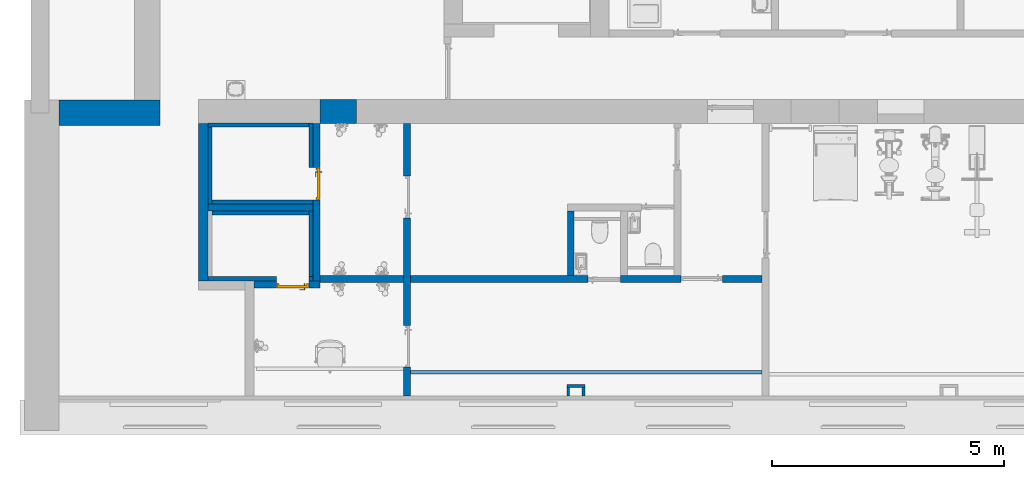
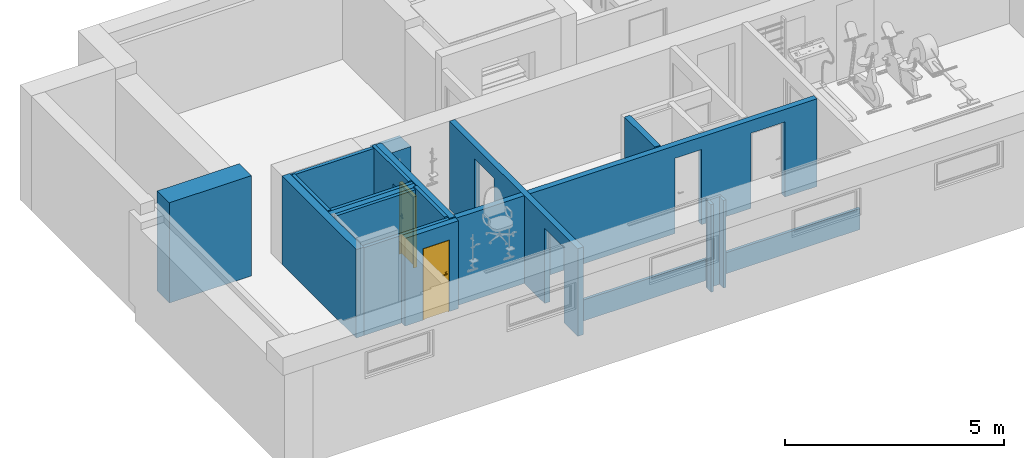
# One storey, part 3 of 23: 20 walls, 2 doors, 9 openings.
"""IFC2X3 building model written with IfcOpenShell, lengths in millimetres."""

from ifc_helpers import new_model, entity, si_unit, converted_unit, derived_unit, direction, frame, frame_2d, origin, place, context, subcontext, project, spatial, polyline, rectangle, extrude, clip, bounded_halfspace, faceted_brep, source, transform, mapped, material, material_list, layer, layer_set, layer_usage, type_object, type_shapes, element, fill, save


model = new_model("IFC2X3")

# Units and contexts
model_context = context("Model", 3, precision=0.01, world=origin(), true_north=direction((6.12303176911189e-17, 1.0)))
body_context = subcontext(model_context, "Body", "Model", "MODEL_VIEW")
ifc_project = project(units=[si_unit("LENGTHUNIT", "METRE", prefix="MILLI"), si_unit("AREAUNIT", "SQUARE_METRE"), si_unit("VOLUMEUNIT", "CUBIC_METRE"), converted_unit("PLANEANGLEUNIT", "DEGREE", entity("IfcRatioMeasure", 0.0174532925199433), si_unit("PLANEANGLEUNIT", "RADIAN"), dimensions=[0, 0, 0, 0, 0, 0, 0]), si_unit("MASSUNIT", "GRAM", prefix="KILO"), derived_unit("MASSDENSITYUNIT", [(si_unit("MASSUNIT", "GRAM", prefix="KILO"), 1), (si_unit("LENGTHUNIT", "METRE"), -3)]), si_unit("TIMEUNIT", "SECOND"), si_unit("FREQUENCYUNIT", "HERTZ"), si_unit("THERMODYNAMICTEMPERATUREUNIT", "DEGREE_CELSIUS"), derived_unit("THERMALTRANSMITTANCEUNIT", [(si_unit("MASSUNIT", "GRAM", prefix="KILO"), 1), (si_unit("THERMODYNAMICTEMPERATUREUNIT", "KELVIN"), -1), (si_unit("TIMEUNIT", "SECOND"), -3)]), derived_unit("VOLUMETRICFLOWRATEUNIT", [(si_unit("LENGTHUNIT", "METRE"), 3), (si_unit("TIMEUNIT", "SECOND"), -1)]), si_unit("ELECTRICCURRENTUNIT", "AMPERE"), si_unit("ELECTRICVOLTAGEUNIT", "VOLT"), si_unit("POWERUNIT", "WATT"), si_unit("FORCEUNIT", "NEWTON", prefix="KILO"), si_unit("ILLUMINANCEUNIT", "LUX"), si_unit("LUMINOUSFLUXUNIT", "LUMEN"), si_unit("LUMINOUSINTENSITYUNIT", "CANDELA"), derived_unit("USERDEFINED", [(si_unit("MASSUNIT", "GRAM", prefix="KILO"), -1), (si_unit("LENGTHUNIT", "METRE"), -2), (si_unit("TIMEUNIT", "SECOND"), 3), (si_unit("LUMINOUSFLUXUNIT", "LUMEN"), 1)]), derived_unit("LINEARVELOCITYUNIT", [(si_unit("LENGTHUNIT", "METRE"), 1), (si_unit("TIMEUNIT", "SECOND"), -1)]), si_unit("PRESSUREUNIT", "PASCAL"), derived_unit("USERDEFINED", [(si_unit("LENGTHUNIT", "METRE"), -2), (si_unit("MASSUNIT", "GRAM", prefix="KILO"), 1), (si_unit("TIMEUNIT", "SECOND"), -2)]), derived_unit("LINEARFORCEUNIT", [(si_unit("MASSUNIT", "GRAM", prefix="KILO"), 1), (si_unit("LENGTHUNIT", "METRE"), 1), (si_unit("TIMEUNIT", "SECOND"), -2), (si_unit("LENGTHUNIT", "METRE"), -1)]), derived_unit("PLANARFORCEUNIT", [(si_unit("MASSUNIT", "GRAM", prefix="KILO"), 1), (si_unit("LENGTHUNIT", "METRE"), 1), (si_unit("TIMEUNIT", "SECOND"), -2), (si_unit("LENGTHUNIT", "METRE"), -2)])], contexts=[model_context])

# Site, building, storey
site_placement = place(None, origin())
site = spatial("IfcSite", under=ifc_project, at=site_placement, Name="Default", CompositionType="ELEMENT")
building_placement = place(site_placement, origin())
building = spatial("IfcBuilding", under=site, at=building_placement, Name="SMA ARH", CompositionType="ELEMENT")
storey_placement = place(building_placement, frame((0.0, 0.0, -2800.0)))
storey = spatial("IfcBuildingStorey", under=building, at=storey_placement, Name="0 Sokkel", CompositionType="ELEMENT", Elevation=-2800.0)

# Walls
ifc_material_1 = material(Name="_ol.olev sein")
ifc_layer_1 = layer(ifc_material_1, 550.0)
ifc_layer_set_1 = layer_set([ifc_layer_1], Name="Basic Wall:Generic - 550mm")
ifc_layer_usage_1 = layer_usage(ifc_layer_set_1, "AXIS2", "POSITIVE", -275.0)
wall_type_1 = type_object("IfcWallType", Name="Basic Wall:Generic - 550mm", PredefinedType="STANDARD", material=ifc_layer_set_1)
wall_1_placement = place(storey_placement, frame((145.0, 6235.0, 0.0)))
element("IfcWallStandardCase", 1, at=wall_1_placement, inside=storey, type_object=wall_type_1, material=ifc_layer_usage_1, Name="Basic Wall:Generic - 550mm", ObjectType="Basic Wall:Generic - 550mm", context=body_context, shape_type="SweptSolid", body=[
    extrude(rectangle(XDim=2170.0, YDim=550.000000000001, at=frame_2d((1085.0, -3.12638803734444e-13), x_axis=(-1.0, 0.0))), origin(), (0.0, 0.0, 1.0), 2800.0),
])
ifc_layer_2 = layer(ifc_material_1, 200.0)
ifc_layer_set_2 = layer_set([ifc_layer_2], Name="Basic Wall:Generic - 200mm")
ifc_layer_usage_2 = layer_usage(ifc_layer_set_2, "AXIS2", "NEGATIVE", 100.0)
wall_type_2 = type_object("IfcWallType", Name="Basic Wall:Generic - 200mm", PredefinedType="STANDARD", material=ifc_layer_set_2)
wall_2_placement = place(storey_placement, frame((3250.0, 2615.0, 0.0), z_axis=(0.0, 0.0, 1.0), x_axis=(0.0, 1.0, 0.0)))
element("IfcWallStandardCase", 2, at=wall_2_placement, inside=storey, type_object=wall_type_2, material=ifc_layer_usage_2, Name="Basic Wall:Generic - 200mm", ObjectType="Basic Wall:Generic - 200mm", context=body_context, shape_type="Clipping", body=[
    clip(extrude(rectangle(XDim=3395.00000000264, YDim=200.0, at=frame_2d((1697.50000000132, -1.13686837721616e-13), x_axis=(-1.0, 0.0))), origin(), (0.0, 0.0, 1.0), 2470.0), bounded_halfspace(frame((0.0, -100.0, 2470.0), z_axis=(0.0, 0.0, -1.0), x_axis=(1.0, 0.0, 0.0)), True, frame((0.0, -100.0, 2470.0), z_axis=(0.0, 0.0, -1.0), x_axis=(1.0, 0.0, 0.0)), polyline([(0.0, 0.0), (0.0, -200.0), (3395.0, -200.0), (3395.0, 0.0), (0.0, 0.0)]))),
])
ifc_material_2 = material(Name="EST. Müüritis. Väikeplokk. Kergkruusplokk")
ifc_layer_3 = layer(ifc_material_2, 510.0)
ifc_layer_set_3 = layer_set([ifc_layer_3], Name="Basic Wall:SS-03_Fibo 510mm kinnilaotav ava")
ifc_layer_usage_3 = layer_usage(ifc_layer_set_3, "AXIS2", "NEGATIVE", 255.0)
wall_type_3 = type_object("IfcWallType", Name="Basic Wall:SS-03_Fibo 510mm kinnilaotav ava", PredefinedType="STANDARD", material=ifc_layer_set_3)
wall_3_placement = place(storey_placement, frame((5769.97172272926, 6265.0, 0.0)))
element("IfcWallStandardCase", 3, at=wall_3_placement, inside=storey, type_object=wall_type_3, material=ifc_layer_usage_3, Name="Basic Wall:SS-03_Fibo 510mm kinnilaotav ava", ObjectType="Basic Wall:SS-03_Fibo 510mm kinnilaotav ava", context=body_context, shape_type="SweptSolid", body=[
    extrude(rectangle(XDim=786.646348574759, YDim=510.000000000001, at=frame_2d((393.323174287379, 3.12638803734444e-13), x_axis=(-1.0, 0.0))), origin(), (0.0, 0.0, 1.0), 2100.0),
])

# Wall, openings
ifc_layer_4 = layer(ifc_material_2, 150.0)
ifc_layer_set_4 = layer_set([ifc_layer_4], Name="Basic Wall:SS-01_ 150mm soklikorruse seinad")
ifc_layer_usage_4 = layer_usage(ifc_layer_set_4, "AXIS2", "NEGATIVE", 75.0)
wall_type_4 = type_object("IfcWallType", Name="Basic Wall:SS-01_ 150mm soklikorruse seinad", PredefinedType="STANDARD", material=ifc_layer_set_4)
wall_4_placement = place(storey_placement, frame((7644.97172272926, 6010.0, 0.0), z_axis=(0.0, 0.0, 1.0), x_axis=(0.0, -1.0, 0.0)))
wall_4 = element("IfcWallStandardCase", 4, at=wall_4_placement, inside=storey, type_object=wall_type_4, material=ifc_layer_usage_4, Name="Basic Wall:SS-01_ 150mm soklikorruse seinad", ObjectType="Basic Wall:SS-01_ 150mm soklikorruse seinad", context=body_context, shape_type="SweptSolid", body=[
    extrude(rectangle(XDim=5875.00000000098, YDim=150.000000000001, at=frame_2d((2937.50000000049, -2.1316282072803e-14), x_axis=(-1.0, 0.0))), origin(), (0.0, 0.0, 1.0), 2450.0),
])
opening_1_placement = place(wall_4_placement, frame((1140.0, -75.0, 0.0)))
element("IfcOpeningElement", 5, at=opening_1_placement, cuts=wall_4, Name="SMA_D01, 1-poolne:SU-KL-02 - 900x2100:1", ObjectType="Opening", context=body_context, shape_type="SweptSolid", body=[
    extrude(rectangle(XDim=2099.99999999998, YDim=900.0, at=frame_2d((1049.99999999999, 450.0), x_axis=(1.0, 0.0))), frame((0.0, 0.0, 0.0), z_axis=(0.0, 1.0, 0.0), x_axis=(0.0, 0.0, 1.0)), (0.0, 0.0, 1.0), 150.0),
])
opening_2_placement = place(wall_4_placement, frame((4355.0, -75.0, 0.0)))
element("IfcOpeningElement", 6, at=opening_2_placement, cuts=wall_4, Name="SMA_D01, 1-poolne:SU-KL-02 - 900x2100:1", ObjectType="Opening", context=body_context, shape_type="SweptSolid", body=[
    extrude(rectangle(XDim=2099.99999999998, YDim=900.0, at=frame_2d((1049.99999999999, 450.0), x_axis=(1.0, 0.0))), frame((0.0, 0.0, 0.0), z_axis=(0.0, 1.0, 0.0), x_axis=(0.0, 0.0, 1.0)), (0.0, 0.0, 1.0), 150.0),
])

# Wall, opening, door
ifc_layer_usage_5 = layer_usage(ifc_layer_set_4, "AXIS2", "NEGATIVE", 75.0)
wall_5_placement = place(storey_placement, frame((5694.97172272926, 2615.0, 0.0), z_axis=(0.0, 0.0, 1.0), x_axis=(0.0, 1.0, 0.0)))
wall_5 = element("IfcWallStandardCase", 7, at=wall_5_placement, inside=storey, type_object=wall_type_4, material=ifc_layer_usage_5, Name="Basic Wall:SS-01_ 150mm soklikorruse seinad", ObjectType="Basic Wall:SS-01_ 150mm soklikorruse seinad", context=body_context, shape_type="SweptSolid", body=[
    extrude(rectangle(XDim=3395.00000000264, YDim=150.000000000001, at=frame_2d((1697.50000000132, -7.105427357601e-15), x_axis=(-1.0, 0.0))), origin(), (0.0, 0.0, 1.0), 2480.0),
])
opening_3_placement = place(wall_5_placement, frame((2445.0, 75.0, 0.0)))
opening_3 = element("IfcOpeningElement", 8, at=opening_3_placement, cuts=wall_5, Name="sma_D01:SU-KL-01 - 700x2000 SAUN KLAAS:1", ObjectType="Opening", context=body_context, shape_type="SweptSolid", body=[
    extrude(rectangle(XDim=1999.99999999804, YDim=700.0, at=frame_2d((999.999999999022, 350.0), x_axis=(1.0, 0.0))), frame((0.0, 0.0, 0.0), z_axis=(0.0, -1.0, 0.0), x_axis=(0.0, 0.0, 1.0)), (0.0, 0.0, 1.0), 150.0),
])
ifc_material_3 = material(Name="Metal - Aluminium")
ifc_material_4 = material(Name="__Aknaraam")
ifc_material_5 = material(Name="Glass")
ifc_material_list_1 = material_list([ifc_material_3, ifc_material_4, ifc_material_5])
ifc_material_6 = material(Name="<Unnamed>")
ifc_material_list_2 = material_list([ifc_material_6, ifc_material_5, ifc_material_3, ifc_material_5, ifc_material_6, ifc_material_4, ifc_material_6])
door_style = type_object("IfcDoorStyle", Name="sma_D01:SU-KL-01 - 700x2000 SAUN KLAAS", ConstructionType="NOTDEFINED", OperationType="NOTDEFINED", ParameterTakesPrecedence=False, Sizeable=False, material=ifc_material_list_2)
shared_shape = source(origin(), body_context, "Body", "Brep", [
    faceted_brep([(110.0, 60.0, 1112.5), (110.0, 98.0, 1112.5), (85.0, 98.0, 1112.5), (85.0, 55.0, 1112.5), (205.0, 55.0, 1112.5), (205.0, 60.0, 1112.5), (110.0, 60.0, 1087.5), (205.0, 60.0, 1087.5), (205.0, 55.0, 1087.5), (85.0, 55.0, 1087.5), (85.0, 98.0, 1087.5), (110.0, 98.0, 1087.5)], [[[0, 1, 2, 3, 4, 5]], [[6, 7, 8, 9, 10, 11]], [[1, 0, 6, 11]], [[2, 1, 11, 10]], [[3, 2, 10, 9]], [[4, 3, 9, 8]], [[5, 4, 8, 7]], [[0, 5, 7, 6]]]),
    faceted_brep([(122.5, 98.0, 1137.5), (122.5, 100.0, 1137.5), (72.4999999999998, 100.0, 1137.5), (72.4999999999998, 98.0, 1137.5), (122.5, 98.0, 1017.5), (72.4999999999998, 98.0, 1017.5), (72.4999999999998, 100.0, 1017.5), (122.5, 100.0, 1017.5)], [[[0, 1, 2, 3]], [[4, 5, 6, 7]], [[1, 0, 4, 7]], [[2, 1, 7, 6]], [[3, 2, 6, 5]], [[0, 3, 5, 4]]]),
    faceted_brep([(110.0, 190.0, 1112.5), (205.0, 190.0, 1112.5), (205.0, 195.0, 1112.5), (85.0, 195.0, 1112.5), (85.0, 152.0, 1112.5), (110.0, 152.0, 1112.5), (110.0, 190.0, 1087.5), (110.0, 152.0, 1087.5), (85.0, 152.0, 1087.5), (85.0, 195.0, 1087.5), (205.0, 195.0, 1087.5), (205.0, 190.0, 1087.5)], [[[0, 1, 2, 3, 4, 5]], [[6, 7, 8, 9, 10, 11]], [[5, 7, 6, 0]], [[4, 8, 7, 5]], [[3, 9, 8, 4]], [[2, 10, 9, 3]], [[1, 11, 10, 2]], [[0, 6, 11, 1]]]),
    faceted_brep([(122.5, 152.0, 1137.5), (72.4999999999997, 152.0, 1137.5), (72.4999999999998, 150.0, 1137.5), (122.5, 150.0, 1137.5), (122.5, 152.0, 1017.5), (122.5, 150.0, 1017.5), (72.4999999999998, 150.0, 1017.5), (72.4999999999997, 152.0, 1017.5)], [[[0, 1, 2, 3]], [[4, 5, 6, 7]], [[3, 5, 4, 0]], [[2, 6, 5, 3]], [[1, 7, 6, 2]], [[0, 4, 7, 1]]]),
    faceted_brep([(690.0, 60.0, 0.0), (650.0, 60.0, 0.0), (650.0, 100.0, 0.0), (665.0, 100.0, 0.0), (665.0, 150.0, 0.0), (690.0, 150.0, 0.0), (690.0, 60.0, 1990.0), (10.0, 60.0, 1990.0), (10.0, 60.0, 0.0), (50.0, 60.0, 0.0), (50.0, 60.0, 1950.0), (650.0, 60.0, 1950.0), (650.0, 100.0, 1950.0), (50.0, 100.0, 1950.0), (50.0, 100.0, 0.0), (35.0, 100.0, 0.0), (35.0, 100.0, 1965.0), (665.0, 100.0, 1965.0), (665.0, 150.0, 1965.0), (35.0, 150.0, 1965.0), (35.0, 150.0, 0.0), (10.0, 150.0, 0.0), (10.0, 150.0, 1990.0), (690.0, 150.0, 1990.0)], [[[0, 1, 2, 3, 4, 5]], [[1, 0, 6, 7, 8, 9, 10, 11]], [[2, 1, 11, 12]], [[3, 2, 12, 13, 14, 15, 16, 17]], [[4, 3, 17, 18]], [[5, 4, 18, 19, 20, 21, 22, 23]], [[0, 5, 23, 6]], [[8, 7, 22, 21]], [[9, 8, 21, 20, 15, 14]], [[10, 9, 14, 13]], [[16, 15, 20, 19]], [[11, 10, 13, 12]], [[17, 16, 19, 18]], [[7, 6, 23, 22]]]),
    faceted_brep([(35.0, 100.0, 1965.0), (35.0, 100.0, 20.0), (665.0, 100.0, 20.0), (665.0, 100.0, 1965.0), (35.0, 150.0, 1965.0), (665.0, 150.0, 1965.0), (665.0, 150.0, 20.0), (35.0, 150.0, 20.0)], [[[0, 1, 2, 3]], [[4, 5, 6, 7]], [[1, 0, 4, 7]], [[2, 1, 7, 6]], [[3, 2, 6, 5]], [[0, 3, 5, 4]]]),
])
type_shapes(door_style, [shared_shape])
door_1_placement = place(opening_3_placement, frame((0.0, 0.0, 0.0), z_axis=(0.0, 0.0, 1.0), x_axis=(-1.0, 0.0, 0.0)))
door_1 = element("IfcDoor", 9, at=door_1_placement, inside=storey, type_object=door_style, material=ifc_material_list_1, Name="sma_D01:SU-KL-01 - 700x2000 SAUN KLAAS", ObjectType="sma_D01:SU-KL-01 - 700x2000 SAUN KLAAS", OverallHeight=1999.99999999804, OverallWidth=700.0, context=body_context, shape_type="MappedRepresentation", body=[
    mapped(shared_shape, transform((0.0, 0.0, 0.0), scale=1.0)),
])
fill(opening_3, door_1)

# Wall
ifc_layer_usage_6 = layer_usage(ifc_layer_set_4, "AXIS2", "NEGATIVE", 75.0)
wall_6_placement = place(storey_placement, frame((3350.0, 4195.0, 0.0)))
element("IfcWallStandardCase", 10, at=wall_6_placement, inside=storey, type_object=wall_type_4, material=ifc_layer_usage_6, Name="Basic Wall:SS-01_ 150mm soklikorruse seinad", ObjectType="Basic Wall:SS-01_ 150mm soklikorruse seinad", context=body_context, shape_type="SweptSolid", body=[
    extrude(rectangle(XDim=2269.97172272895, YDim=150.000000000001, at=frame_2d((1134.98586136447, 4.9737991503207e-14), x_axis=(-1.0, 0.0))), origin(), (0.0, 0.0, 1.0), 2450.0),
])

# Wall, openings
ifc_layer_usage_7 = layer_usage(ifc_layer_set_4, "AXIS2", "NEGATIVE", 75.0)
wall_7_placement = place(storey_placement, frame((5769.97172272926, 2655.0, 0.0)))
wall_7 = element("IfcWallStandardCase", 11, at=wall_7_placement, inside=storey, type_object=wall_type_4, material=ifc_layer_usage_7, Name="Basic Wall:SS-01_ 150mm soklikorruse seinad", ObjectType="Basic Wall:SS-01_ 150mm soklikorruse seinad", context=body_context, shape_type="SweptSolid", body=[
    extrude(rectangle(XDim=9530.02827727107, YDim=150.000000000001, at=frame_2d((4765.01413863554, -6.3948846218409e-14), x_axis=(-1.0, 0.0))), origin(), (0.0, 0.0, 1.0), 2450.0),
])
opening_4_placement = place(storey_placement, frame((5769.97172272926, 2655.0, 0.0)))
element("IfcOpeningElement", 12, at=opening_4_placement, cuts=wall_7, Name="Basic Wall:SS-01_ 150mm soklikorruse seinad:1", ObjectType="Opening", context=body_context, shape_type="SweptSolid", body=[
    extrude(rectangle(XDim=2450.0, YDim=150.0, at=frame_2d((0.0, 2.70006239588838e-13), x_axis=(1.0, 0.0))), frame((1800.0, 0.0, 1225.0), z_axis=(1.0, 0.0, 0.0), x_axis=(0.0, 0.0, -1.0)), (0.0, 0.0, 1.0), 149.999999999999),
])
opening_5_placement = place(wall_7_placement, frame((7780.05188595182, -75.0, 0.0)))
element("IfcOpeningElement", 13, at=opening_5_placement, cuts=wall_7, Name="SMA_D01, 1-poolne:SU-P-01 - 900x2100:1", ObjectType="Opening", context=body_context, shape_type="SweptSolid", body=[
    extrude(rectangle(XDim=2099.99999999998, YDim=900.0, at=frame_2d((1049.99999999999, 450.0), x_axis=(1.0, 0.0))), frame((0.0, 0.0, 0.0), z_axis=(0.0, 1.0, 0.0), x_axis=(0.0, 0.0, 1.0)), (0.0, 0.0, 1.0), 150.0),
])
opening_6_placement = place(wall_7_placement, frame((6480.05188595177, 75.0, 0.0)))
element("IfcOpeningElement", 14, at=opening_6_placement, cuts=wall_7, Name="SMA_D01, 1-poolne:SU-P-02 - 700x2100:1", ObjectType="Opening", context=body_context, shape_type="SweptSolid", body=[
    extrude(rectangle(XDim=2099.99999999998, YDim=700.0, at=frame_2d((1049.99999999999, 350.000000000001), x_axis=(1.0, 0.0))), frame((0.0, 0.0, 0.0), z_axis=(0.0, -1.0, 0.0), x_axis=(0.0, 0.0, 1.0)), (0.0, 0.0, 1.0), 150.0),
])

# Wall, opening, door
ifc_layer_usage_8 = layer_usage(ifc_layer_set_4, "AXIS2", "NEGATIVE", 75.0)
wall_8_placement = place(storey_placement, frame((4350.0, 2540.0, 0.0)))
wall_8 = element("IfcWallStandardCase", 15, at=wall_8_placement, inside=storey, type_object=wall_type_4, material=ifc_layer_usage_8, Name="Basic Wall:SS-01_ 150mm soklikorruse seinad", ObjectType="Basic Wall:SS-01_ 150mm soklikorruse seinad", context=body_context, shape_type="SweptSolid", body=[
    extrude(rectangle(XDim=1419.97172272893, YDim=149.999999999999, at=frame_2d((709.985861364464, 1.27897692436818e-13), x_axis=(-1.0, 0.0))), origin(), (0.0, 0.0, 1.0), 2450.0),
])
opening_7_placement = place(wall_8_placement, frame((1179.97172272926, 75.0, 0.0)))
opening_7 = element("IfcOpeningElement", 16, at=opening_7_placement, cuts=wall_8, Name="sma_D01:SU-KL-01 - 700x2000 SAUN KLAAS:1", ObjectType="Opening", context=body_context, shape_type="SweptSolid", body=[
    extrude(rectangle(XDim=1999.99999999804, YDim=700.0, at=frame_2d((999.999999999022, 350.0), x_axis=(1.0, 0.0))), frame((0.0, 0.0, 0.0), z_axis=(0.0, -1.0, 0.0), x_axis=(0.0, 0.0, 1.0)), (0.0, 0.0, 1.0), 150.0),
])
ifc_material_list_3 = material_list([ifc_material_3, ifc_material_4, ifc_material_5])
door_2_placement = place(opening_7_placement, frame((0.0, 0.0, 0.0), z_axis=(0.0, 0.0, 1.0), x_axis=(-1.0, 0.0, 0.0)))
door_2 = element("IfcDoor", 17, at=door_2_placement, inside=storey, type_object=door_style, material=ifc_material_list_3, Name="sma_D01:SU-KL-01 - 700x2000 SAUN KLAAS", ObjectType="sma_D01:SU-KL-01 - 700x2000 SAUN KLAAS", OverallHeight=1999.99999999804, OverallWidth=700.0, context=body_context, shape_type="MappedRepresentation", body=[
    mapped(shared_shape, transform((0.0, 0.0, 0.0), scale=1.0)),
])
fill(opening_7, door_2)

# Wall
ifc_layer_usage_9 = layer_usage(ifc_layer_set_4, "AXIS2", "NEGATIVE", 75.0)
wall_9_placement = place(storey_placement, frame((11175.023608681, 2730.0, 0.0), z_axis=(0.0, 0.0, 1.0), x_axis=(0.0, 1.0, 0.0)))
element("IfcWallStandardCase", 18, at=wall_9_placement, inside=storey, type_object=wall_type_4, material=ifc_layer_usage_9, Name="Basic Wall:SS-01_ 150mm soklikorruse seinad", ObjectType="Basic Wall:SS-01_ 150mm soklikorruse seinad", context=body_context, shape_type="SweptSolid", body=[
    extrude(rectangle(XDim=1390.00000000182, YDim=150.000000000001, at=frame_2d((695.00000000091, -4.9737991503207e-14), x_axis=(-1.0, 0.0))), origin(), (0.0, 0.0, 1.0), 2480.0),
])

# Wall, opening
ifc_material_7 = material(Name="EST. Fassaadikate. Laudis. Vertikaalne. Default")
ifc_layer_5 = layer(ifc_material_7, 15.0)
ifc_material_8 = material(Name="EST. Õhkvahe. Roov. Fassaadikatte alusroov. Vertikaalne")
ifc_layer_6 = layer(ifc_material_8, 25.0)
ifc_material_9 = material(Name="EST. Soojustus. Mineraalvill. Default")
ifc_layer_7 = layer(ifc_material_9, 50.0)
ifc_layer_set_5 = layer_set([ifc_layer_5, ifc_layer_6, ifc_layer_7], Name="Basic Wall:SS-00_Sauna sein")
ifc_layer_usage_10 = layer_usage(ifc_layer_set_5, "AXIS2", "NEGATIVE", 45.0)
wall_type_5 = type_object("IfcWallType", Name="Basic Wall:SS-00_Sauna sein", PredefinedType="STANDARD", material=ifc_layer_set_5)
wall_10_placement = place(storey_placement, frame((3350.0, 2660.0, 0.0)))
wall_10 = element("IfcWallStandardCase", 19, at=wall_10_placement, inside=storey, type_object=wall_type_5, material=ifc_layer_usage_10, Name="Basic Wall:SS-00_Sauna sein", ObjectType="Basic Wall:SS-00_Sauna sein", context=body_context, shape_type="SweptSolid", body=[
    extrude(rectangle(XDim=2269.97172272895, YDim=90.0000000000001, at=frame_2d((1134.98586136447, -4.61852778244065e-14), x_axis=(-1.0, 0.0))), origin(), (0.0, 0.0, 1.0), 2450.0),
])
opening_8_placement = place(wall_10_placement, origin())
element("IfcOpeningElement", 20, at=opening_8_placement, cuts=wall_10, Name="Basic Wall:SS-00_Sauna sein", ObjectType="Opening", context=body_context, shape_type="SweptSolid", body=[
    extrude(rectangle(XDim=1999.99999999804, YDim=700.0, at=frame_2d((1.13686837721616e-13, 5.40012479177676e-13), x_axis=(1.0, 0.0))), frame((1829.97172272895, -1569.0, 1000.0), z_axis=(0.0, 1.0, 0.0), x_axis=(0.0, 0.0, 1.0)), (0.0, 0.0, 1.0), 3048.0),
])

# Walls
ifc_layer_usage_11 = layer_usage(ifc_layer_set_5, "AXIS2", "NEGATIVE", 45.0)
wall_11_placement = place(storey_placement, frame((5574.97172272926, 2705.0, 0.0), z_axis=(0.0, 0.0, 1.0), x_axis=(0.0, 1.0, 0.0)))
element("IfcWallStandardCase", 21, at=wall_11_placement, inside=storey, type_object=wall_type_5, material=ifc_layer_usage_11, Name="Basic Wall:SS-00_Sauna sein", ObjectType="Basic Wall:SS-00_Sauna sein", context=body_context, shape_type="SweptSolid", body=[
    extrude(rectangle(XDim=1415.00000000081, YDim=89.999999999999, at=frame_2d((707.500000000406, 1.17239551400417e-13), x_axis=(-1.0, 0.0))), origin(), (0.0, 0.0, 1.0), 2490.0),
])
ifc_layer_usage_12 = layer_usage(ifc_layer_set_5, "AXIS2", "NEGATIVE", 45.0)
wall_12_placement = place(storey_placement, frame((5529.97172272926, 5975.0, 0.0), z_axis=(0.0, 0.0, 1.0), x_axis=(-1.0, 0.0, 0.0)))
element("IfcWallStandardCase", 22, at=wall_12_placement, inside=storey, type_object=wall_type_5, material=ifc_layer_usage_12, Name="Basic Wall:SS-00_Sauna sein", ObjectType="Basic Wall:SS-00_Sauna sein", context=body_context, shape_type="SweptSolid", body=[
    extrude(rectangle(XDim=2179.97172272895, YDim=89.999999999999, at=frame_2d((1089.98586136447, 0.0), x_axis=(-1.0, 0.0))), origin(), (0.0, 0.0, 1.0), 2450.0),
])
ifc_layer_usage_13 = layer_usage(ifc_layer_set_5, "AXIS2", "NEGATIVE", 45.0)
wall_13_placement = place(storey_placement, frame((3395.0, 5930.0, 0.0), z_axis=(0.0, 0.0, 1.0), x_axis=(0.0, -1.0, 0.0)))
element("IfcWallStandardCase", 23, at=wall_13_placement, inside=storey, type_object=wall_type_5, material=ifc_layer_usage_13, Name="Basic Wall:SS-00_Sauna sein", ObjectType="Basic Wall:SS-00_Sauna sein", context=body_context, shape_type="SweptSolid", body=[
    extrude(rectangle(XDim=1660.00000000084, YDim=90.0000000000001, at=frame_2d((830.000000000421, 4.9737991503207e-14), x_axis=(-1.0, 0.0))), origin(), (0.0, 0.0, 1.0), 2480.0),
])

# Wall, opening
ifc_layer_usage_14 = layer_usage(ifc_layer_set_5, "AXIS2", "NEGATIVE", 45.0)
wall_14_placement = place(storey_placement, frame((5574.97172272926, 4360.0, 0.0), z_axis=(0.0, 0.0, 1.0), x_axis=(0.0, 1.0, 0.0)))
wall_14 = element("IfcWallStandardCase", 24, at=wall_14_placement, inside=storey, type_object=wall_type_5, material=ifc_layer_usage_14, Name="Basic Wall:SS-00_Sauna sein", ObjectType="Basic Wall:SS-00_Sauna sein", context=body_context, shape_type="SweptSolid", body=[
    extrude(rectangle(XDim=1660.00000000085, YDim=89.999999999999, at=frame_2d((830.000000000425, 3.26849658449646e-13), x_axis=(-1.0, 0.0))), origin(), (0.0, 0.0, 1.0), 2480.0),
])
opening_9_placement = place(wall_14_placement, origin())
element("IfcOpeningElement", 25, at=opening_9_placement, cuts=wall_14, Name="Basic Wall:SS-00_Sauna sein", ObjectType="Opening", context=body_context, shape_type="SweptSolid", body=[
    extrude(rectangle(XDim=1999.99999999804, YDim=700.0, at=frame_2d((1.13686837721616e-13, 0.0), x_axis=(1.0, 0.0))), frame((350.0, -1569.0, 1000.0), z_axis=(0.0, 1.0, 0.0), x_axis=(0.0, 0.0, 1.0)), (0.0, 0.0, 1.0), 3048.0),
])

# Walls
ifc_layer_usage_15 = layer_usage(ifc_layer_set_5, "AXIS2", "POSITIVE", -45.0)
wall_15_placement = place(storey_placement, frame((3440.0, 4075.0, 0.0)))
element("IfcWallStandardCase", 26, at=wall_15_placement, inside=storey, type_object=wall_type_5, material=ifc_layer_usage_15, Name="Basic Wall:SS-00_Sauna sein", ObjectType="Basic Wall:SS-00_Sauna sein", context=body_context, shape_type="SweptSolid", body=[
    extrude(rectangle(XDim=2089.97172272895, YDim=90.0000000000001, at=frame_2d((1044.98586136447, 1.10134124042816e-13), x_axis=(-1.0, 0.0))), origin(), (0.0, 0.0, 1.0), 2450.0),
])
ifc_layer_usage_16 = layer_usage(ifc_layer_set_5, "AXIS2", "NEGATIVE", 45.0)
wall_16_placement = place(storey_placement, frame((3440.0, 4315.0, 0.0)))
element("IfcWallStandardCase", 27, at=wall_16_placement, inside=storey, type_object=wall_type_5, material=ifc_layer_usage_16, Name="Basic Wall:SS-00_Sauna sein", ObjectType="Basic Wall:SS-00_Sauna sein", context=body_context, shape_type="SweptSolid", body=[
    extrude(rectangle(XDim=2179.97172272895, YDim=90.0000000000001, at=frame_2d((1089.98586136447, 2.1316282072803e-14), x_axis=(-1.0, 0.0))), origin(), (0.0, 0.0, 1.0), 2450.0),
])
ifc_material_10 = material(Name="EST. Ehitusplaat. Kipsplaat")
ifc_layer_8 = layer(ifc_material_10, 12.5)
ifc_layer_9 = layer(ifc_material_10, 12.5)
ifc_material_11 = material(Name="EST. Õhkvahe. Roov. Kipsplaadi alusroov. Vertikaalne")
ifc_layer_10 = layer(ifc_material_11, 50.0)
ifc_layer_set_6 = layer_set([ifc_layer_8, ifc_layer_9, ifc_layer_10], Name="Basic Wall:SS-00_Kips, 50mm metallkarkass ühe poolne")
ifc_layer_usage_17 = layer_usage(ifc_layer_set_6, "AXIS2", "NEGATIVE", 37.5)
wall_type_6 = type_object("IfcWallType", Name="Basic Wall:SS-00_Kips, 50mm metallkarkass ühe poolne", PredefinedType="STANDARD", material=ifc_layer_set_6)
wall_17_placement = place(storey_placement, frame((7719.97172272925, 647.500000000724, -5.95000000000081)))
element("IfcWallStandardCase", 28, at=wall_17_placement, inside=storey, type_object=wall_type_6, material=ifc_layer_usage_17, Name="Basic Wall:SS-00_Kips, 50mm metallkarkass ühe poolne", ObjectType="Basic Wall:SS-00_Kips, 50mm metallkarkass ühe poolne", context=body_context, shape_type="SweptSolid", body=[
    extrude(rectangle(XDim=7580.02827727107, YDim=75.0, at=frame_2d((3790.01413863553, -1.77635683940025e-14), x_axis=(-1.0, 0.0))), origin(), (0.0, 0.0, 1.0), 585.950000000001),
])
ifc_layer_11 = layer(ifc_material_9, 50.0)
ifc_layer_12 = layer(ifc_material_10, 12.5)
ifc_layer_set_7 = layer_set([ifc_layer_11, ifc_layer_12], Name="Basic Wall:SS-05_Kips, 50mm metallkarkass")
ifc_layer_usage_18 = layer_usage(ifc_layer_set_7, "AXIS2", "POSITIVE", -31.25)
wall_type_7 = type_object("IfcWallType", Name="Basic Wall:SS-05_Kips, 50mm metallkarkass", PredefinedType="STANDARD", material=ifc_layer_set_7)
wall_18_placement = place(storey_placement, frame((11091.2032368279, 347.499999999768, 0.0)))
element("IfcWallStandardCase", 29, at=wall_18_placement, inside=storey, type_object=wall_type_7, material=ifc_layer_usage_18, Name="Basic Wall:SS-05_Kips, 50mm metallkarkass", ObjectType="Basic Wall:SS-05_Kips, 50mm metallkarkass", context=body_context, shape_type="SweptSolid", body=[
    extrude(rectangle(XDim=387.500000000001, YDim=62.5, at=frame_2d((193.75, -1.59872115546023e-14), x_axis=(-1.0, 0.0))), origin(), (0.0, 0.0, 1.0), 2450.0),
])
ifc_layer_usage_19 = layer_usage(ifc_layer_set_7, "AXIS2", "POSITIVE", -31.25)
wall_19_placement = place(storey_placement, frame((11447.4532368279, 316.249999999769, 0.0), z_axis=(0.0, 0.0, 1.0), x_axis=(0.0, -1.0, 0.0)))
element("IfcWallStandardCase", 30, at=wall_19_placement, inside=storey, type_object=wall_type_7, material=ifc_layer_usage_19, Name="Basic Wall:SS-05_Kips, 50mm metallkarkass", ObjectType="Basic Wall:SS-05_Kips, 50mm metallkarkass", context=body_context, shape_type="SweptSolid", body=[
    extrude(rectangle(XDim=181.25, YDim=62.4999999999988, at=frame_2d((90.625, 0.0), x_axis=(-1.0, 0.0))), origin(), (0.0, 0.0, 1.0), 2450.0),
])
ifc_layer_usage_20 = layer_usage(ifc_layer_set_7, "AXIS2", "NEGATIVE", 31.25)
wall_20_placement = place(storey_placement, frame((11122.4532368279, 316.249999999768, 0.0), z_axis=(0.0, 0.0, 1.0), x_axis=(0.0, -1.0, 0.0)))
element("IfcWallStandardCase", 31, at=wall_20_placement, inside=storey, type_object=wall_type_7, material=ifc_layer_usage_20, Name="Basic Wall:SS-05_Kips, 50mm metallkarkass", ObjectType="Basic Wall:SS-05_Kips, 50mm metallkarkass", context=body_context, shape_type="SweptSolid", body=[
    extrude(rectangle(XDim=181.249999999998, YDim=62.4999999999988, at=frame_2d((90.624999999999, 0.0), x_axis=(-1.0, 0.0))), origin(), (0.0, 0.0, 1.0), 2450.0),
])

save(model, "model.ifc")
